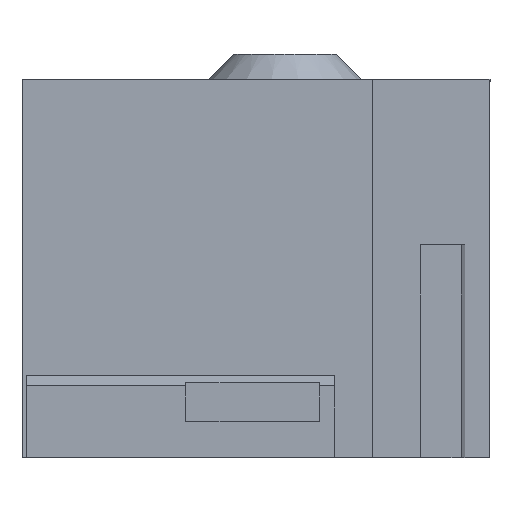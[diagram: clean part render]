
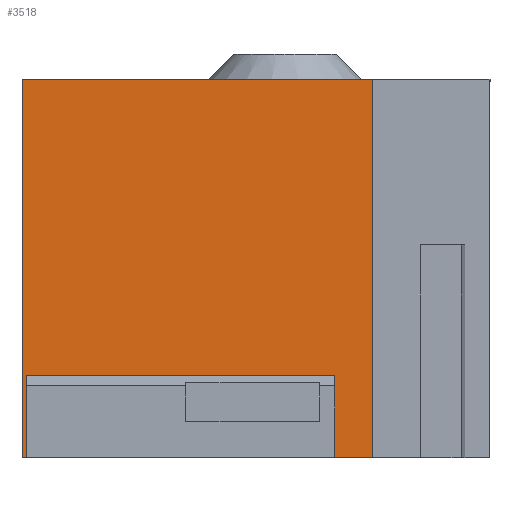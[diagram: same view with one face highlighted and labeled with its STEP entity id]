
A CAD part, front view. The second image highlights one B-rep face of the part: STEP entity #3518.
In plain terms, the highlighted planar face has unit normal (0, -1, 0).
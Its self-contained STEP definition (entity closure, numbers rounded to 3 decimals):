
#339=FACE_OUTER_BOUND('',#510,.T.);
#510=EDGE_LOOP('',(#2668,#2669,#2670,#2671,#2672,#2673,#2674,#2675));
#646=LINE('',#4713,#1069);
#653=LINE('',#4728,#1076);
#697=LINE('',#4816,#1120);
#699=LINE('',#4819,#1122);
#705=LINE('',#4831,#1128);
#847=LINE('',#5209,#1270);
#848=LINE('',#5211,#1271);
#849=LINE('',#5212,#1272);
#1069=VECTOR('',#3887,10.);
#1076=VECTOR('',#3898,10.);
#1120=VECTOR('',#3942,10.);
#1122=VECTOR('',#3946,10.);
#1128=VECTOR('',#3958,10.);
#1270=VECTOR('',#4188,10.);
#1271=VECTOR('',#4189,10.);
#1272=VECTOR('',#4190,10.);
#1487=VERTEX_POINT('',#4710);
#1488=VERTEX_POINT('',#4712);
#1493=VERTEX_POINT('',#4725);
#1494=VERTEX_POINT('',#4727);
#1537=VERTEX_POINT('',#4813);
#1538=VERTEX_POINT('',#4815);
#1651=VERTEX_POINT('',#5208);
#1652=VERTEX_POINT('',#5210);
#1826=EDGE_CURVE('',#1488,#1487,#646,.T.);
#1833=EDGE_CURVE('',#1493,#1494,#653,.T.);
#1877=EDGE_CURVE('',#1537,#1538,#697,.T.);
#1879=EDGE_CURVE('',#1493,#1488,#699,.T.);
#1885=EDGE_CURVE('',#1487,#1538,#705,.T.);
#2039=EDGE_CURVE('',#1537,#1651,#847,.T.);
#2040=EDGE_CURVE('',#1652,#1651,#848,.T.);
#2041=EDGE_CURVE('',#1494,#1652,#849,.T.);
#2668=ORIENTED_EDGE('',*,*,#1885,.T.);
#2669=ORIENTED_EDGE('',*,*,#1877,.F.);
#2670=ORIENTED_EDGE('',*,*,#2039,.T.);
#2671=ORIENTED_EDGE('',*,*,#2040,.F.);
#2672=ORIENTED_EDGE('',*,*,#2041,.F.);
#2673=ORIENTED_EDGE('',*,*,#1833,.F.);
#2674=ORIENTED_EDGE('',*,*,#1879,.T.);
#2675=ORIENTED_EDGE('',*,*,#1826,.T.);
#3366=PLANE('',#3714);
#3518=ADVANCED_FACE('',(#339),#3366,.T.);
#3714=AXIS2_PLACEMENT_3D('',#5207,#4186,#4187);
#3887=DIRECTION('',(1.,0.,0.));
#3898=DIRECTION('',(-1.,0.,0.));
#3942=DIRECTION('',(-1.,0.,0.));
#3946=DIRECTION('',(0.,0.,1.));
#3958=DIRECTION('',(0.,0.,-1.));
#4186=DIRECTION('center_axis',(0.,-1.,0.));
#4187=DIRECTION('ref_axis',(-1.,0.,0.));
#4188=DIRECTION('',(0.,0.,1.));
#4189=DIRECTION('',(1.,0.,0.));
#4190=DIRECTION('',(0.,0.,1.));
#4710=CARTESIAN_POINT('',(-2080.349,-2020.693,-4400.));
#4712=CARTESIAN_POINT('',(-8080.349,-2020.693,-4400.));
#4713=CARTESIAN_POINT('',(-4432.228,-2020.693,-4400.));
#4725=CARTESIAN_POINT('',(-8080.349,-2020.693,-6000.));
#4727=CARTESIAN_POINT('',(-8169.85,-2020.693,-6000.));
#4728=CARTESIAN_POINT('',(-7710.89,-2020.693,-6000.));
#4813=CARTESIAN_POINT('',(-1337.8,-2020.693,-6000.));
#4815=CARTESIAN_POINT('',(-2080.349,-2020.693,-6000.));
#4816=CARTESIAN_POINT('',(-7710.89,-2020.693,-6000.));
#4819=CARTESIAN_POINT('',(-8080.349,-2020.693,-1769.));
#4831=CARTESIAN_POINT('',(-2080.349,-2020.693,-1769.));
#5207=CARTESIAN_POINT('Origin',(-784.107,-2020.693,962.));
#5208=CARTESIAN_POINT('',(-1337.8,-2020.693,1366.25));
#5209=CARTESIAN_POINT('',(-1337.8,-2020.693,0.));
#5210=CARTESIAN_POINT('',(-8169.85,-2020.693,1366.25));
#5211=CARTESIAN_POINT('',(-7710.89,-2020.693,1366.25));
#5212=CARTESIAN_POINT('',(-8169.85,-2020.693,0.));
